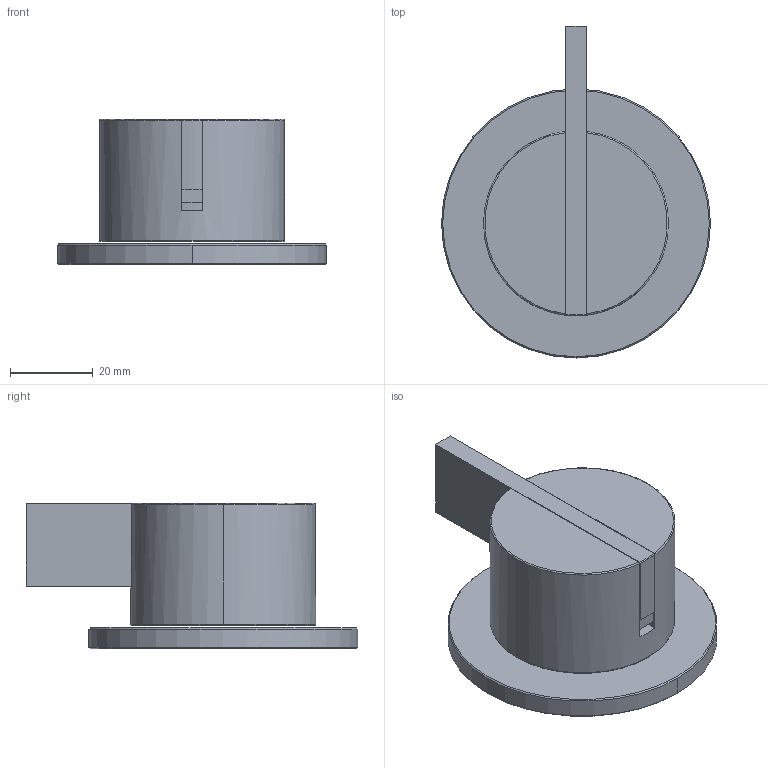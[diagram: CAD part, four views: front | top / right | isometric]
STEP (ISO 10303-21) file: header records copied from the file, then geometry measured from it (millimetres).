
FILE_DESCRIPTION((''),'2;1');
FILE_NAME('0241001B_ASM','2019-02-12T',('filar'),(''),'CREO PARAMETRIC BY PTC INC, 2014440','CREO PARAMETRIC BY PTC INC, 2014440','');
FILE_SCHEMA(('CONFIG_CONTROL_DESIGN'));
Length unit declared in the file: millimetre
Products named in the file (4): P024002; P024001; P024011; 0241001B_ASM
Assembly tree (3 placements, depth 2):
  0241001B_ASM
    P024002
    P024001
    P024011
Bounding box: 65 x 80.15 x 35.1 mm (x, y, z)
Volume: 68782.2 mm3; surface area: 19099.2 mm2
Topology: 3 solids, 3 shells, 38 faces, 85 edges, 54 vertices
Faces by surface type: plane 18, cylinder 9, cone 7, torus 4
Entity records: 1181 total; most frequent: CARTESIAN_POINT 209, DIRECTION 204, ORIENTED_EDGE 170, EDGE_CURVE 85, AXIS2_PLACEMENT_3D 80, VERTEX_POINT 54, VECTOR 44, LINE 44
